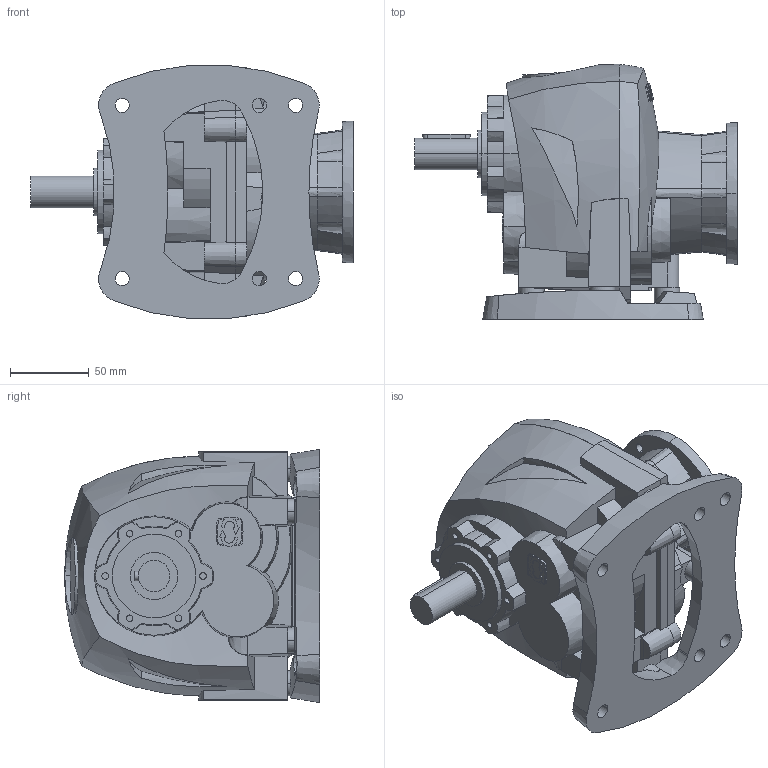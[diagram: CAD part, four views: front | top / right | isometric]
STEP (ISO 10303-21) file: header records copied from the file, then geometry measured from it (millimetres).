
FILE_DESCRIPTION (( 'STEP AP203' ), '1' );
FILE_NAME ('RBA2_IFL63B4_FSW_OSH20L40.STEP', '2013-02-07T09:05:48', ( '' ), ( '' ), 'SwSTEP 2.0', 'SolidWorks 2012', '' );
FILE_SCHEMA (( 'CONFIG_CONTROL_DESIGN' ));
Length unit declared in the file: millimetre
Products named in the file (1): RBA2_IFL63B4_FSW_OSH20L40
Bounding box: 204.5 x 161.88 x 160.7 mm (x, y, z)
Volume: 1944786.9 mm3; surface area: 151777.8 mm2
Topology: 1 solids, 1 shells, 552 faces, 1563 edges, 1038 vertices
Faces by surface type: plane 233, cylinder 142, cone 91, bspline 84, torus 2
Entity records: 24292 total; most frequent: CARTESIAN_POINT 11100, ORIENTED_EDGE 3126, DIRECTION 2209, EDGE_CURVE 1563, VERTEX_POINT 1038, AXIS2_PLACEMENT_3D 840, B_SPLINE_CURVE_WITH_KNOTS 610, EDGE_LOOP 607
